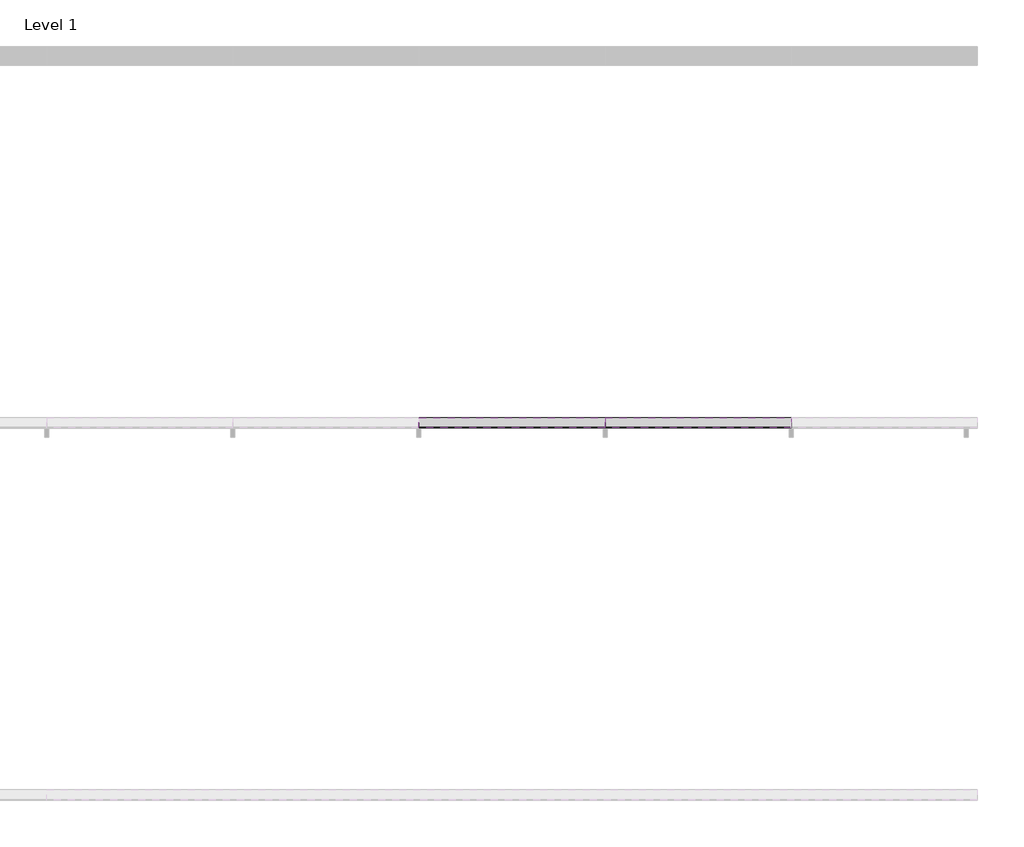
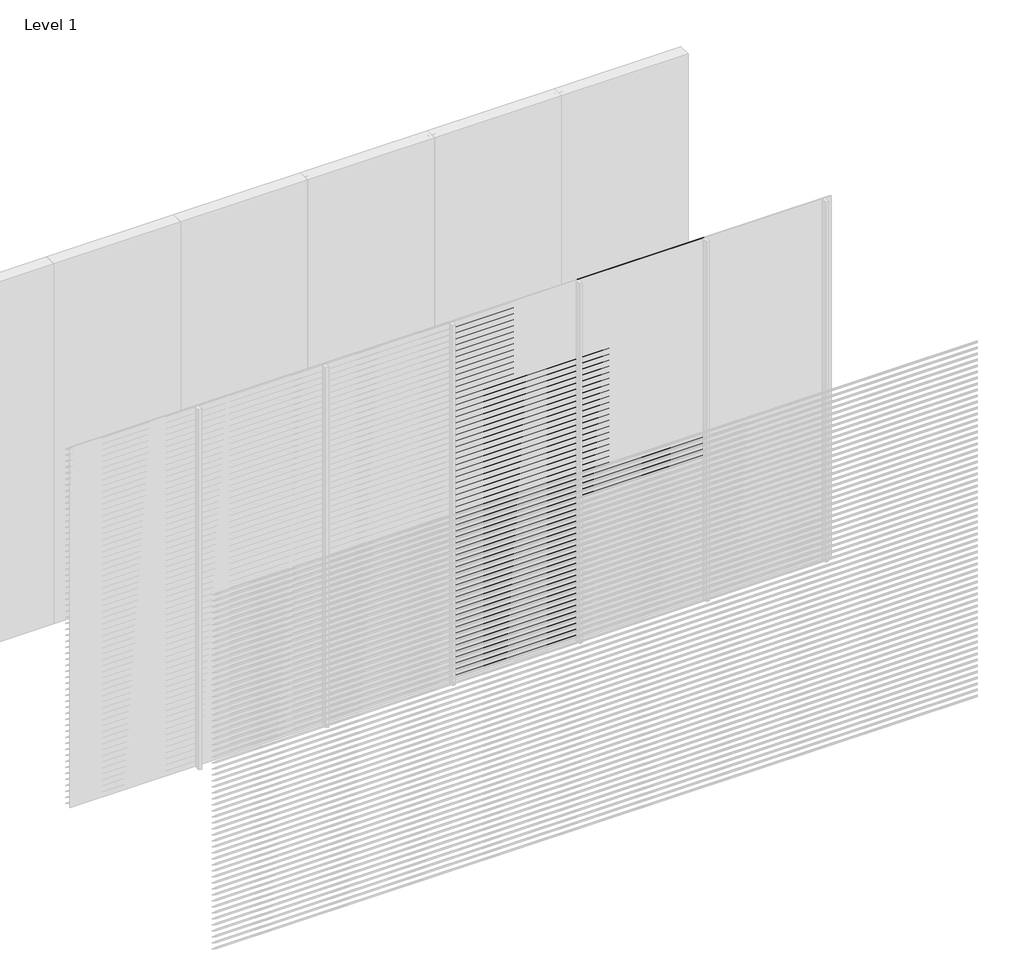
# One storey, part 13 of 18: 96 proxies.
"""IFC4 building model written with IfcOpenShell, lengths in millimetres."""

from ifc_helpers import new_model, si_unit, frame, origin, place, context, project, spatial, polyline, outline, extrude, element, save

model = new_model("IFC4")

# Units and contexts
model_context = context("Model", 3, world=origin())
ifc_project = project(units=[si_unit("LENGTHUNIT", "METRE", prefix="MILLI")], contexts=[model_context])

# Site, building, storey
site = spatial("IfcSite", under=ifc_project)
building = spatial("IfcBuilding", under=site)
storey = spatial("IfcBuildingStorey", under=building, Name="Level 1", Elevation=0.0)

# Proxies
placement = place(None, origin())
element("IfcBuildingElementProxy", 1, Name="Wall Sweeps", at=placement, inside=storey, context=model_context, shape_type="SweptSolid", body=[
    extrude(outline(polyline([(-5995.0, 2950.0), (-5995.0, 2941.0744429), (-5943.0, 2906.0), (-5943.0, 2900.0), (-5997.0, 2936.4234599), (-5997.0, 2950.0), (-5995.0, 2950.0)])), frame((3000.0, 0.0, 0.0), z_axis=(1.0, 0.0, 0.0), x_axis=(0.0, 1.0, 0.0)), (0.0, 0.0, 1.0), 1000.0),
])
element("IfcBuildingElementProxy", 2, Name="Wall Sweeps", at=placement, inside=storey, context=model_context, shape_type="SweptSolid", body=[
    extrude(outline(polyline([(-5995.0, 2900.0), (-5995.0, 2891.0744429), (-5943.0, 2856.0), (-5943.0, 2850.0), (-5997.0, 2886.4234599), (-5997.0, 2900.0), (-5995.0, 2900.0)])), frame((3000.0, 0.0, 0.0), z_axis=(1.0, 0.0, 0.0), x_axis=(0.0, 1.0, 0.0)), (0.0, 0.0, 1.0), 1000.0),
])
element("IfcBuildingElementProxy", 3, Name="Wall Sweeps", at=placement, inside=storey, context=model_context, shape_type="SweptSolid", body=[
    extrude(outline(polyline([(-5995.0, 2850.0), (-5995.0, 2841.0744429), (-5943.0, 2806.0), (-5943.0, 2800.0), (-5997.0, 2836.4234599), (-5997.0, 2850.0), (-5995.0, 2850.0)])), frame((3000.0, 0.0, 0.0), z_axis=(1.0, 0.0, 0.0), x_axis=(0.0, 1.0, 0.0)), (0.0, 0.0, 1.0), 1000.0),
])
element("IfcBuildingElementProxy", 4, Name="Wall Sweeps", at=placement, inside=storey, context=model_context, shape_type="SweptSolid", body=[
    extrude(outline(polyline([(-5995.0, 2800.0), (-5995.0, 2791.0744429), (-5943.0, 2756.0), (-5943.0, 2750.0), (-5997.0, 2786.4234599), (-5997.0, 2800.0), (-5995.0, 2800.0)])), frame((3000.0, 0.0, 0.0), z_axis=(1.0, 0.0, 0.0), x_axis=(0.0, 1.0, 0.0)), (0.0, 0.0, 1.0), 1000.0),
])
element("IfcBuildingElementProxy", 5, Name="Wall Sweeps", at=placement, inside=storey, context=model_context, shape_type="SweptSolid", body=[
    extrude(outline(polyline([(-5995.0, 2750.0), (-5995.0, 2741.0744429), (-5943.0, 2706.0), (-5943.0, 2700.0), (-5997.0, 2736.4234599), (-5997.0, 2750.0), (-5995.0, 2750.0)])), frame((3000.0, 0.0, 0.0), z_axis=(1.0, 0.0, 0.0), x_axis=(0.0, 1.0, 0.0)), (0.0, 0.0, 1.0), 1000.0),
])
element("IfcBuildingElementProxy", 6, Name="Wall Sweeps", at=placement, inside=storey, context=model_context, shape_type="SweptSolid", body=[
    extrude(outline(polyline([(-5995.0, 2700.0), (-5995.0, 2691.0744429), (-5943.0, 2656.0), (-5943.0, 2650.0), (-5997.0, 2686.4234599), (-5997.0, 2700.0), (-5995.0, 2700.0)])), frame((3000.0, 0.0, 0.0), z_axis=(1.0, 0.0, 0.0), x_axis=(0.0, 1.0, 0.0)), (0.0, 0.0, 1.0), 1000.0),
])
element("IfcBuildingElementProxy", 7, Name="Wall Sweeps", at=placement, inside=storey, context=model_context, shape_type="SweptSolid", body=[
    extrude(outline(polyline([(-5995.0, 2650.0), (-5995.0, 2641.0744429), (-5943.0, 2606.0), (-5943.0, 2600.0), (-5997.0, 2636.4234599), (-5997.0, 2650.0), (-5995.0, 2650.0)])), frame((3000.0, 0.0, 0.0), z_axis=(1.0, 0.0, 0.0), x_axis=(0.0, 1.0, 0.0)), (0.0, 0.0, 1.0), 1000.0),
])
element("IfcBuildingElementProxy", 8, Name="Wall Sweeps", at=placement, inside=storey, context=model_context, shape_type="SweptSolid", body=[
    extrude(outline(polyline([(-5995.0, 2600.0), (-5995.0, 2591.0744429), (-5943.0, 2556.0), (-5943.0, 2550.0), (-5997.0, 2586.4234599), (-5997.0, 2600.0), (-5995.0, 2600.0)])), frame((3000.0, 0.0, 0.0), z_axis=(1.0, 0.0, 0.0), x_axis=(0.0, 1.0, 0.0)), (0.0, 0.0, 1.0), 1000.0),
])
element("IfcBuildingElementProxy", 9, Name="Wall Sweeps", at=placement, inside=storey, context=model_context, shape_type="SweptSolid", body=[
    extrude(outline(polyline([(-5995.0, 2550.0), (-5995.0, 2541.0744429), (-5943.0, 2506.0), (-5943.0, 2500.0), (-5997.0, 2536.4234599), (-5997.0, 2550.0), (-5995.0, 2550.0)])), frame((3000.0, 0.0, 0.0), z_axis=(1.0, 0.0, 0.0), x_axis=(0.0, 1.0, 0.0)), (0.0, 0.0, 1.0), 1000.0),
])
element("IfcBuildingElementProxy", 10, Name="Wall Sweeps", at=placement, inside=storey, context=model_context, shape_type="SweptSolid", body=[
    extrude(outline(polyline([(-5995.0, 2500.0), (-5995.0, 2491.0744429), (-5943.0, 2456.0), (-5943.0, 2450.0), (-5997.0, 2486.4234599), (-5997.0, 2500.0), (-5995.0, 2500.0)])), frame((3000.0, 0.0, 0.0), z_axis=(1.0, 0.0, 0.0), x_axis=(0.0, 1.0, 0.0)), (0.0, 0.0, 1.0), 1000.0),
])
element("IfcBuildingElementProxy", 11, Name="Wall Sweeps", at=placement, inside=storey, context=model_context, shape_type="SweptSolid", body=[
    extrude(outline(polyline([(-5995.0, 2450.0), (-5995.0, 2441.0744429), (-5943.0, 2406.0), (-5943.0, 2400.0), (-5997.0, 2436.4234599), (-5997.0, 2450.0), (-5995.0, 2450.0)])), frame((3000.0, 0.0, 0.0), z_axis=(1.0, 0.0, 0.0), x_axis=(0.0, 1.0, 0.0)), (0.0, 0.0, 1.0), 1000.0),
])
element("IfcBuildingElementProxy", 12, Name="Wall Sweeps", at=placement, inside=storey, context=model_context, shape_type="SweptSolid", body=[
    extrude(outline(polyline([(-5995.0, 2400.0), (-5995.0, 2391.0744429), (-5943.0, 2356.0), (-5943.0, 2350.0), (-5997.0, 2386.4234599), (-5997.0, 2400.0), (-5995.0, 2400.0)])), frame((3000.0, 0.0, 0.0), z_axis=(1.0, 0.0, 0.0), x_axis=(0.0, 1.0, 0.0)), (0.0, 0.0, 1.0), 1000.0),
])
element("IfcBuildingElementProxy", 13, Name="Wall Sweeps", at=placement, inside=storey, context=model_context, shape_type="SweptSolid", body=[
    extrude(outline(polyline([(-5995.0, 2350.0), (-5995.0, 2341.0744429), (-5943.0, 2306.0), (-5943.0, 2300.0), (-5997.0, 2336.4234599), (-5997.0, 2350.0), (-5995.0, 2350.0)])), frame((3000.0, 0.0, 0.0), z_axis=(1.0, 0.0, 0.0), x_axis=(0.0, 1.0, 0.0)), (0.0, 0.0, 1.0), 1000.0),
])
element("IfcBuildingElementProxy", 14, Name="Wall Sweeps", at=placement, inside=storey, context=model_context, shape_type="SweptSolid", body=[
    extrude(outline(polyline([(-5995.0, 2300.0), (-5995.0, 2291.0744429), (-5943.0, 2256.0), (-5943.0, 2250.0), (-5997.0, 2286.4234599), (-5997.0, 2300.0), (-5995.0, 2300.0)])), frame((3000.0, 0.0, 0.0), z_axis=(1.0, 0.0, 0.0), x_axis=(0.0, 1.0, 0.0)), (0.0, 0.0, 1.0), 1000.0),
])
element("IfcBuildingElementProxy", 15, Name="Wall Sweeps", at=placement, inside=storey, context=model_context, shape_type="SweptSolid", body=[
    extrude(outline(polyline([(-5995.0, 2250.0), (-5995.0, 2241.0744429), (-5943.0, 2206.0), (-5943.0, 2200.0), (-5997.0, 2236.4234599), (-5997.0, 2250.0), (-5995.0, 2250.0)])), frame((3000.0, 0.0, 0.0), z_axis=(1.0, 0.0, 0.0), x_axis=(0.0, 1.0, 0.0)), (0.0, 0.0, 1.0), 1000.0),
])
element("IfcBuildingElementProxy", 16, Name="Wall Sweeps", at=placement, inside=storey, context=model_context, shape_type="SweptSolid", body=[
    extrude(outline(polyline([(-5995.0, 2200.0), (-5995.0, 2191.0744429), (-5943.0, 2156.0), (-5943.0, 2150.0), (-5997.0, 2186.4234599), (-5997.0, 2200.0), (-5995.0, 2200.0)])), frame((3000.0, 0.0, 0.0), z_axis=(1.0, 0.0, 0.0), x_axis=(0.0, 1.0, 0.0)), (0.0, 0.0, 1.0), 1000.0),
])
element("IfcBuildingElementProxy", 17, Name="Wall Sweeps", at=placement, inside=storey, context=model_context, shape_type="SweptSolid", body=[
    extrude(outline(polyline([(-5995.0, 2150.0), (-5995.0, 2141.0744429), (-5943.0, 2106.0), (-5943.0, 2100.0), (-5997.0, 2136.4234599), (-5997.0, 2150.0), (-5995.0, 2150.0)])), frame((3000.0, 0.0, 0.0), z_axis=(1.0, 0.0, 0.0), x_axis=(0.0, 1.0, 0.0)), (0.0, 0.0, 1.0), 1000.0),
])
element("IfcBuildingElementProxy", 18, Name="Wall Sweeps", at=placement, inside=storey, context=model_context, shape_type="SweptSolid", body=[
    extrude(outline(polyline([(-5995.0, 2100.0), (-5995.0, 2091.0744429), (-5943.0, 2056.0), (-5943.0, 2050.0), (-5997.0, 2086.4234599), (-5997.0, 2100.0), (-5995.0, 2100.0)])), frame((3000.0, 0.0, 0.0), z_axis=(1.0, 0.0, 0.0), x_axis=(0.0, 1.0, 0.0)), (0.0, 0.0, 1.0), 1000.0),
])
element("IfcBuildingElementProxy", 19, Name="Wall Sweeps", at=placement, inside=storey, context=model_context, shape_type="SweptSolid", body=[
    extrude(outline(polyline([(-5995.0, 2050.0), (-5995.0, 2041.0744429), (-5943.0, 2006.0), (-5943.0, 2000.0), (-5997.0, 2036.4234599), (-5997.0, 2050.0), (-5995.0, 2050.0)])), frame((3000.0, 0.0, 0.0), z_axis=(1.0, 0.0, 0.0), x_axis=(0.0, 1.0, 0.0)), (0.0, 0.0, 1.0), 1000.0),
])
element("IfcBuildingElementProxy", 20, Name="Wall Sweeps", at=placement, inside=storey, context=model_context, shape_type="SweptSolid", body=[
    extrude(outline(polyline([(-5995.0, 2000.0), (-5995.0, 1991.0744429), (-5943.0, 1956.0), (-5943.0, 1950.0), (-5997.0, 1986.4234599), (-5997.0, 2000.0), (-5995.0, 2000.0)])), frame((3000.0, 0.0, 0.0), z_axis=(1.0, 0.0, 0.0), x_axis=(0.0, 1.0, 0.0)), (0.0, 0.0, 1.0), 1000.0),
])
element("IfcBuildingElementProxy", 21, Name="Wall Sweeps", at=placement, inside=storey, context=model_context, shape_type="SweptSolid", body=[
    extrude(outline(polyline([(-5995.0, 1950.0), (-5995.0, 1941.0744429), (-5943.0, 1906.0), (-5943.0, 1900.0), (-5997.0, 1936.4234599), (-5997.0, 1950.0), (-5995.0, 1950.0)])), frame((3000.0, 0.0, 0.0), z_axis=(1.0, 0.0, 0.0), x_axis=(0.0, 1.0, 0.0)), (0.0, 0.0, 1.0), 1000.0),
])
element("IfcBuildingElementProxy", 22, Name="Wall Sweeps", at=placement, inside=storey, context=model_context, shape_type="SweptSolid", body=[
    extrude(outline(polyline([(-5995.0, 1900.0), (-5995.0, 1891.0744429), (-5943.0, 1856.0), (-5943.0, 1850.0), (-5997.0, 1886.4234599), (-5997.0, 1900.0), (-5995.0, 1900.0)])), frame((3000.0, 0.0, 0.0), z_axis=(1.0, 0.0, 0.0), x_axis=(0.0, 1.0, 0.0)), (0.0, 0.0, 1.0), 1000.0),
])
element("IfcBuildingElementProxy", 23, Name="Wall Sweeps", at=placement, inside=storey, context=model_context, shape_type="SweptSolid", body=[
    extrude(outline(polyline([(-5995.0, 1850.0), (-5995.0, 1841.0744429), (-5943.0, 1806.0), (-5943.0, 1800.0), (-5997.0, 1836.4234599), (-5997.0, 1850.0), (-5995.0, 1850.0)])), frame((3000.0, 0.0, 0.0), z_axis=(1.0, 0.0, 0.0), x_axis=(0.0, 1.0, 0.0)), (0.0, 0.0, 1.0), 1000.0),
])
element("IfcBuildingElementProxy", 24, Name="Wall Sweeps", at=placement, inside=storey, context=model_context, shape_type="SweptSolid", body=[
    extrude(outline(polyline([(-5995.0, 1800.0), (-5995.0, 1791.0744429), (-5943.0, 1756.0), (-5943.0, 1750.0), (-5997.0, 1786.4234599), (-5997.0, 1800.0), (-5995.0, 1800.0)])), frame((3000.0, 0.0, 0.0), z_axis=(1.0, 0.0, 0.0), x_axis=(0.0, 1.0, 0.0)), (0.0, 0.0, 1.0), 1000.0),
])
element("IfcBuildingElementProxy", 25, Name="Wall Sweeps", at=placement, inside=storey, context=model_context, shape_type="SweptSolid", body=[
    extrude(outline(polyline([(-5995.0, 1750.0), (-5995.0, 1741.0744429), (-5943.0, 1706.0), (-5943.0, 1700.0), (-5997.0, 1736.4234599), (-5997.0, 1750.0), (-5995.0, 1750.0)])), frame((3000.0, 0.0, 0.0), z_axis=(1.0, 0.0, 0.0), x_axis=(0.0, 1.0, 0.0)), (0.0, 0.0, 1.0), 1000.0),
])
element("IfcBuildingElementProxy", 26, Name="Wall Sweeps", at=placement, inside=storey, context=model_context, shape_type="SweptSolid", body=[
    extrude(outline(polyline([(-5995.0, 1700.0), (-5995.0, 1691.0744429), (-5943.0, 1656.0), (-5943.0, 1650.0), (-5997.0, 1686.4234599), (-5997.0, 1700.0), (-5995.0, 1700.0)])), frame((3000.0, 0.0, 0.0), z_axis=(1.0, 0.0, 0.0), x_axis=(0.0, 1.0, 0.0)), (0.0, 0.0, 1.0), 1000.0),
])
element("IfcBuildingElementProxy", 27, Name="Wall Sweeps", at=placement, inside=storey, context=model_context, shape_type="SweptSolid", body=[
    extrude(outline(polyline([(-5995.0, 1650.0), (-5995.0, 1641.0744429), (-5943.0, 1606.0), (-5943.0, 1600.0), (-5997.0, 1636.4234599), (-5997.0, 1650.0), (-5995.0, 1650.0)])), frame((3000.0, 0.0, 0.0), z_axis=(1.0, 0.0, 0.0), x_axis=(0.0, 1.0, 0.0)), (0.0, 0.0, 1.0), 1000.0),
])
element("IfcBuildingElementProxy", 28, Name="Wall Sweeps", at=placement, inside=storey, context=model_context, shape_type="SweptSolid", body=[
    extrude(outline(polyline([(-5995.0, 1600.0), (-5995.0, 1591.0744429), (-5943.0, 1556.0), (-5943.0, 1550.0), (-5997.0, 1586.4234599), (-5997.0, 1600.0), (-5995.0, 1600.0)])), frame((3000.0, 0.0, 0.0), z_axis=(1.0, 0.0, 0.0), x_axis=(0.0, 1.0, 0.0)), (0.0, 0.0, 1.0), 1000.0),
])
element("IfcBuildingElementProxy", 29, Name="Wall Sweeps", at=placement, inside=storey, context=model_context, shape_type="SweptSolid", body=[
    extrude(outline(polyline([(-5995.0, 1550.0), (-5995.0, 1541.0744429), (-5943.0, 1506.0), (-5943.0, 1500.0), (-5997.0, 1536.4234599), (-5997.0, 1550.0), (-5995.0, 1550.0)])), frame((3000.0, 0.0, 0.0), z_axis=(1.0, 0.0, 0.0), x_axis=(0.0, 1.0, 0.0)), (0.0, 0.0, 1.0), 1000.0),
])
element("IfcBuildingElementProxy", 30, Name="Wall Sweeps", at=placement, inside=storey, context=model_context, shape_type="SweptSolid", body=[
    extrude(outline(polyline([(-5995.0, 1500.0), (-5995.0, 1491.0744429), (-5943.0, 1456.0), (-5943.0, 1450.0), (-5997.0, 1486.4234599), (-5997.0, 1500.0), (-5995.0, 1500.0)])), frame((3000.0, 0.0, 0.0), z_axis=(1.0, 0.0, 0.0), x_axis=(0.0, 1.0, 0.0)), (0.0, 0.0, 1.0), 1000.0),
])
element("IfcBuildingElementProxy", 31, Name="Wall Sweeps", at=placement, inside=storey, context=model_context, shape_type="SweptSolid", body=[
    extrude(outline(polyline([(-5995.0, 1450.0), (-5995.0, 1441.0744429), (-5943.0, 1406.0), (-5943.0, 1400.0), (-5997.0, 1436.4234599), (-5997.0, 1450.0), (-5995.0, 1450.0)])), frame((3000.0, 0.0, 0.0), z_axis=(1.0, 0.0, 0.0), x_axis=(0.0, 1.0, 0.0)), (0.0, 0.0, 1.0), 1000.0),
])
element("IfcBuildingElementProxy", 32, Name="Wall Sweeps", at=placement, inside=storey, context=model_context, shape_type="SweptSolid", body=[
    extrude(outline(polyline([(-5995.0, 1400.0), (-5995.0, 1391.0744429), (-5943.0, 1356.0), (-5943.0, 1350.0), (-5997.0, 1386.4234599), (-5997.0, 1400.0), (-5995.0, 1400.0)])), frame((3000.0, 0.0, 0.0), z_axis=(1.0, 0.0, 0.0), x_axis=(0.0, 1.0, 0.0)), (0.0, 0.0, 1.0), 1000.0),
])
element("IfcBuildingElementProxy", 33, Name="Wall Sweeps", at=placement, inside=storey, context=model_context, shape_type="SweptSolid", body=[
    extrude(outline(polyline([(-5995.0, 1350.0), (-5995.0, 1341.0744429), (-5943.0, 1306.0), (-5943.0, 1300.0), (-5997.0, 1336.4234599), (-5997.0, 1350.0), (-5995.0, 1350.0)])), frame((3000.0, 0.0, 0.0), z_axis=(1.0, 0.0, 0.0), x_axis=(0.0, 1.0, 0.0)), (0.0, 0.0, 1.0), 1000.0),
])
element("IfcBuildingElementProxy", 34, Name="Wall Sweeps", at=placement, inside=storey, context=model_context, shape_type="SweptSolid", body=[
    extrude(outline(polyline([(-5995.0, 1300.0), (-5995.0, 1291.0744429), (-5943.0, 1256.0), (-5943.0, 1250.0), (-5997.0, 1286.4234599), (-5997.0, 1300.0), (-5995.0, 1300.0)])), frame((3000.0, 0.0, 0.0), z_axis=(1.0, 0.0, 0.0), x_axis=(0.0, 1.0, 0.0)), (0.0, 0.0, 1.0), 1000.0),
])
element("IfcBuildingElementProxy", 35, Name="Wall Sweeps", at=placement, inside=storey, context=model_context, shape_type="SweptSolid", body=[
    extrude(outline(polyline([(-5995.0, 1250.0), (-5995.0, 1241.0744429), (-5943.0, 1206.0), (-5943.0, 1200.0), (-5997.0, 1236.4234599), (-5997.0, 1250.0), (-5995.0, 1250.0)])), frame((3000.0, 0.0, 0.0), z_axis=(1.0, 0.0, 0.0), x_axis=(0.0, 1.0, 0.0)), (0.0, 0.0, 1.0), 1000.0),
])
element("IfcBuildingElementProxy", 36, Name="Wall Sweeps", at=placement, inside=storey, context=model_context, shape_type="SweptSolid", body=[
    extrude(outline(polyline([(-5995.0, 1200.0), (-5995.0, 1191.0744429), (-5943.0, 1156.0), (-5943.0, 1150.0), (-5997.0, 1186.4234599), (-5997.0, 1200.0), (-5995.0, 1200.0)])), frame((3000.0, 0.0, 0.0), z_axis=(1.0, 0.0, 0.0), x_axis=(0.0, 1.0, 0.0)), (0.0, 0.0, 1.0), 1000.0),
])
element("IfcBuildingElementProxy", 37, Name="Wall Sweeps", at=placement, inside=storey, context=model_context, shape_type="SweptSolid", body=[
    extrude(outline(polyline([(-5995.0, 1150.0), (-5995.0, 1141.0744429), (-5943.0, 1106.0), (-5943.0, 1100.0), (-5997.0, 1136.4234599), (-5997.0, 1150.0), (-5995.0, 1150.0)])), frame((3000.0, 0.0, 0.0), z_axis=(1.0, 0.0, 0.0), x_axis=(0.0, 1.0, 0.0)), (0.0, 0.0, 1.0), 1000.0),
])
element("IfcBuildingElementProxy", 38, Name="Wall Sweeps", at=placement, inside=storey, context=model_context, shape_type="SweptSolid", body=[
    extrude(outline(polyline([(-5995.0, 1100.0), (-5995.0, 1091.0744429), (-5943.0, 1056.0), (-5943.0, 1050.0), (-5997.0, 1086.4234599), (-5997.0, 1100.0), (-5995.0, 1100.0)])), frame((3000.0, 0.0, 0.0), z_axis=(1.0, 0.0, 0.0), x_axis=(0.0, 1.0, 0.0)), (0.0, 0.0, 1.0), 1000.0),
])
element("IfcBuildingElementProxy", 39, Name="Wall Sweeps", at=placement, inside=storey, context=model_context, shape_type="SweptSolid", body=[
    extrude(outline(polyline([(-5995.0, 1050.0), (-5995.0, 1041.0744429), (-5943.0, 1006.0), (-5943.0, 1000.0), (-5997.0, 1036.4234599), (-5997.0, 1050.0), (-5995.0, 1050.0)])), frame((3000.0, 0.0, 0.0), z_axis=(1.0, 0.0, 0.0), x_axis=(0.0, 1.0, 0.0)), (0.0, 0.0, 1.0), 1000.0),
])
element("IfcBuildingElementProxy", 40, Name="Wall Sweeps", at=placement, inside=storey, context=model_context, shape_type="SweptSolid", body=[
    extrude(outline(polyline([(-5995.0, 1000.0), (-5995.0, 991.0744429), (-5943.0, 956.0), (-5943.0, 950.0), (-5997.0, 986.4234599), (-5997.0, 1000.0), (-5995.0, 1000.0)])), frame((3000.0, 0.0, 0.0), z_axis=(1.0, 0.0, 0.0), x_axis=(0.0, 1.0, 0.0)), (0.0, 0.0, 1.0), 1000.0),
])
element("IfcBuildingElementProxy", 41, Name="Wall Sweeps", at=placement, inside=storey, context=model_context, shape_type="SweptSolid", body=[
    extrude(outline(polyline([(-5995.0, 950.0), (-5995.0, 941.0744429), (-5943.0, 906.0), (-5943.0, 900.0), (-5997.0, 936.4234599), (-5997.0, 950.0), (-5995.0, 950.0)])), frame((3000.0, 0.0, 0.0), z_axis=(1.0, 0.0, 0.0), x_axis=(0.0, 1.0, 0.0)), (0.0, 0.0, 1.0), 1000.0),
])
element("IfcBuildingElementProxy", 42, Name="Wall Sweeps", at=placement, inside=storey, context=model_context, shape_type="SweptSolid", body=[
    extrude(outline(polyline([(-5995.0, 900.0), (-5995.0, 891.0744429), (-5943.0, 856.0), (-5943.0, 850.0), (-5997.0, 886.4234599), (-5997.0, 900.0), (-5995.0, 900.0)])), frame((3000.0, 0.0, 0.0), z_axis=(1.0, 0.0, 0.0), x_axis=(0.0, 1.0, 0.0)), (0.0, 0.0, 1.0), 1000.0),
])
element("IfcBuildingElementProxy", 43, Name="Wall Sweeps", at=placement, inside=storey, context=model_context, shape_type="SweptSolid", body=[
    extrude(outline(polyline([(-5995.0, 850.0), (-5995.0, 841.0744429), (-5943.0, 806.0), (-5943.0, 800.0), (-5997.0, 836.4234599), (-5997.0, 850.0), (-5995.0, 850.0)])), frame((3000.0, 0.0, 0.0), z_axis=(1.0, 0.0, 0.0), x_axis=(0.0, 1.0, 0.0)), (0.0, 0.0, 1.0), 1000.0),
])
element("IfcBuildingElementProxy", 44, Name="Wall Sweeps", at=placement, inside=storey, context=model_context, shape_type="SweptSolid", body=[
    extrude(outline(polyline([(-5995.0, 800.0), (-5995.0, 791.0744429), (-5943.0, 756.0), (-5943.0, 750.0), (-5997.0, 786.4234599), (-5997.0, 800.0), (-5995.0, 800.0)])), frame((3000.0, 0.0, 0.0), z_axis=(1.0, 0.0, 0.0), x_axis=(0.0, 1.0, 0.0)), (0.0, 0.0, 1.0), 1000.0),
])
element("IfcBuildingElementProxy", 45, Name="Wall Sweeps", at=placement, inside=storey, context=model_context, shape_type="SweptSolid", body=[
    extrude(outline(polyline([(-5995.0, 750.0), (-5995.0, 741.0744429), (-5943.0, 706.0), (-5943.0, 700.0), (-5997.0, 736.4234599), (-5997.0, 750.0), (-5995.0, 750.0)])), frame((3000.0, 0.0, 0.0), z_axis=(1.0, 0.0, 0.0), x_axis=(0.0, 1.0, 0.0)), (0.0, 0.0, 1.0), 1000.0),
])
element("IfcBuildingElementProxy", 46, Name="Wall Sweeps", at=placement, inside=storey, context=model_context, shape_type="SweptSolid", body=[
    extrude(outline(polyline([(-5995.0, 700.0), (-5995.0, 691.0744429), (-5943.0, 656.0), (-5943.0, 650.0), (-5997.0, 686.4234599), (-5997.0, 700.0), (-5995.0, 700.0)])), frame((3000.0, 0.0, 0.0), z_axis=(1.0, 0.0, 0.0), x_axis=(0.0, 1.0, 0.0)), (0.0, 0.0, 1.0), 1000.0),
])
element("IfcBuildingElementProxy", 47, Name="Wall Sweeps", at=placement, inside=storey, context=model_context, shape_type="SweptSolid", body=[
    extrude(outline(polyline([(-5995.0, 650.0), (-5995.0, 641.0744429), (-5943.0, 606.0), (-5943.0, 600.0), (-5997.0, 636.4234599), (-5997.0, 650.0), (-5995.0, 650.0)])), frame((3000.0, 0.0, 0.0), z_axis=(1.0, 0.0, 0.0), x_axis=(0.0, 1.0, 0.0)), (0.0, 0.0, 1.0), 1000.0),
])
element("IfcBuildingElementProxy", 48, Name="Wall Sweeps", at=placement, inside=storey, context=model_context, shape_type="SweptSolid", body=[
    extrude(outline(polyline([(-5995.0, 600.0), (-5995.0, 591.0744429), (-5943.0, 556.0), (-5943.0, 550.0), (-5997.0, 586.4234599), (-5997.0, 600.0), (-5995.0, 600.0)])), frame((3000.0, 0.0, 0.0), z_axis=(1.0, 0.0, 0.0), x_axis=(0.0, 1.0, 0.0)), (0.0, 0.0, 1.0), 1000.0),
])
element("IfcBuildingElementProxy", 49, Name="Wall Sweeps", at=placement, inside=storey, context=model_context, shape_type="SweptSolid", body=[
    extrude(outline(polyline([(-5995.0, 550.0), (-5995.0, 541.0744429), (-5943.0, 506.0), (-5943.0, 500.0), (-5997.0, 536.4234599), (-5997.0, 550.0), (-5995.0, 550.0)])), frame((3000.0, 0.0, 0.0), z_axis=(1.0, 0.0, 0.0), x_axis=(0.0, 1.0, 0.0)), (0.0, 0.0, 1.0), 1000.0),
])
element("IfcBuildingElementProxy", 50, Name="Wall Sweeps", at=placement, inside=storey, context=model_context, shape_type="SweptSolid", body=[
    extrude(outline(polyline([(-5995.0, 500.0), (-5995.0, 491.0744429), (-5943.0, 456.0), (-5943.0, 450.0), (-5997.0, 486.4234599), (-5997.0, 500.0), (-5995.0, 500.0)])), frame((3000.0, 0.0, 0.0), z_axis=(1.0, 0.0, 0.0), x_axis=(0.0, 1.0, 0.0)), (0.0, 0.0, 1.0), 1000.0),
])
element("IfcBuildingElementProxy", 51, Name="Wall Sweeps", at=placement, inside=storey, context=model_context, shape_type="SweptSolid", body=[
    extrude(outline(polyline([(-5995.0, 450.0), (-5995.0, 441.0744429), (-5943.0, 406.0), (-5943.0, 400.0), (-5997.0, 436.4234599), (-5997.0, 450.0), (-5995.0, 450.0)])), frame((3000.0, 0.0, 0.0), z_axis=(1.0, 0.0, 0.0), x_axis=(0.0, 1.0, 0.0)), (0.0, 0.0, 1.0), 1000.0),
])
element("IfcBuildingElementProxy", 52, Name="Wall Sweeps", at=placement, inside=storey, context=model_context, shape_type="SweptSolid", body=[
    extrude(outline(polyline([(-5995.0, 400.0), (-5995.0, 391.0744429), (-5943.0, 356.0), (-5943.0, 350.0), (-5997.0, 386.4234599), (-5997.0, 400.0), (-5995.0, 400.0)])), frame((3000.0, 0.0, 0.0), z_axis=(1.0, 0.0, 0.0), x_axis=(0.0, 1.0, 0.0)), (0.0, 0.0, 1.0), 1000.0),
])
element("IfcBuildingElementProxy", 53, Name="Wall Sweeps", at=placement, inside=storey, context=model_context, shape_type="SweptSolid", body=[
    extrude(outline(polyline([(-5995.0, 350.0), (-5995.0, 341.0744429), (-5943.0, 306.0), (-5943.0, 300.0), (-5997.0, 336.4234599), (-5997.0, 350.0), (-5995.0, 350.0)])), frame((3000.0, 0.0, 0.0), z_axis=(1.0, 0.0, 0.0), x_axis=(0.0, 1.0, 0.0)), (0.0, 0.0, 1.0), 1000.0),
])
element("IfcBuildingElementProxy", 54, Name="Wall Sweeps", at=placement, inside=storey, context=model_context, shape_type="SweptSolid", body=[
    extrude(outline(polyline([(-5995.0, 300.0), (-5995.0, 291.0744429), (-5943.0, 256.0), (-5943.0, 250.0), (-5997.0, 286.4234599), (-5997.0, 300.0), (-5995.0, 300.0)])), frame((3000.0, 0.0, 0.0), z_axis=(1.0, 0.0, 0.0), x_axis=(0.0, 1.0, 0.0)), (0.0, 0.0, 1.0), 1000.0),
])
element("IfcBuildingElementProxy", 55, Name="Wall Sweeps", at=placement, inside=storey, context=model_context, shape_type="SweptSolid", body=[
    extrude(outline(polyline([(-5995.0, 250.0), (-5995.0, 241.0744429), (-5943.0, 206.0), (-5943.0, 200.0), (-5997.0, 236.4234599), (-5997.0, 250.0), (-5995.0, 250.0)])), frame((3000.0, 0.0, 0.0), z_axis=(1.0, 0.0, 0.0), x_axis=(0.0, 1.0, 0.0)), (0.0, 0.0, 1.0), 1000.0),
])
element("IfcBuildingElementProxy", 56, Name="Wall Sweeps", at=placement, inside=storey, context=model_context, shape_type="SweptSolid", body=[
    extrude(outline(polyline([(-5995.0, 200.0), (-5995.0, 191.0744429), (-5943.0, 156.0), (-5943.0, 150.0), (-5997.0, 186.4234599), (-5997.0, 200.0), (-5995.0, 200.0)])), frame((3000.0, 0.0, 0.0), z_axis=(1.0, 0.0, 0.0), x_axis=(0.0, 1.0, 0.0)), (0.0, 0.0, 1.0), 1000.0),
])
element("IfcBuildingElementProxy", 57, Name="Wall Sweeps", at=placement, inside=storey, context=model_context, shape_type="SweptSolid", body=[
    extrude(outline(polyline([(-5995.0, 150.0), (-5995.0, 141.0744429), (-5943.0, 106.0), (-5943.0, 100.0), (-5997.0, 136.4234599), (-5997.0, 150.0), (-5995.0, 150.0)])), frame((3000.0, 0.0, 0.0), z_axis=(1.0, 0.0, 0.0), x_axis=(0.0, 1.0, 0.0)), (0.0, 0.0, 1.0), 1000.0),
])
element("IfcBuildingElementProxy", 58, Name="Wall Sweeps", at=placement, inside=storey, context=model_context, shape_type="SweptSolid", body=[
    extrude(outline(polyline([(-5995.0, 100.0), (-5995.0, 91.0744429), (-5943.0, 56.0), (-5943.0, 50.0), (-5997.0, 86.4234599), (-5997.0, 100.0), (-5995.0, 100.0)])), frame((3000.0, 0.0, 0.0), z_axis=(1.0, 0.0, 0.0), x_axis=(0.0, 1.0, 0.0)), (0.0, 0.0, 1.0), 1000.0),
])
element("IfcBuildingElementProxy", 59, Name="Wall Sweeps", at=placement, inside=storey, context=model_context, shape_type="SweptSolid", body=[
    extrude(outline(polyline([(-5995.0, 50.0), (-5995.0, 41.0744429), (-5943.0, 6.0), (-5943.0, 0.0), (-5997.0, 36.4234599), (-5997.0, 50.0), (-5995.0, 50.0)])), frame((3000.0, 0.0, 0.0), z_axis=(1.0, 0.0, 0.0), x_axis=(0.0, 1.0, 0.0)), (0.0, 0.0, 1.0), 1000.0),
])
element("IfcBuildingElementProxy", 60, Name="Wall Sweeps", at=placement, inside=storey, context=model_context, shape_type="SweptSolid", body=[
    extrude(outline(polyline([(-5995.0, 3000.0), (-5995.0, 2991.0744429), (-5943.0, 2956.0), (-5943.0, 2950.0), (-5997.0, 2986.4234599), (-5997.0, 3000.0), (-5995.0, 3000.0)])), frame((4000.0, 0.0, 0.0), z_axis=(1.0, 0.0, 0.0), x_axis=(0.0, 1.0, 0.0)), (0.0, 0.0, 1.0), 1000.0),
])
element("IfcBuildingElementProxy", 61, Name="Wall Sweeps", at=placement, inside=storey, context=model_context, shape_type="SweptSolid", body=[
    extrude(outline(polyline([(-5995.0, 2950.0), (-5995.0, 2941.0744429), (-5943.0, 2906.0), (-5943.0, 2900.0), (-5997.0, 2936.4234599), (-5997.0, 2950.0), (-5995.0, 2950.0)])), frame((4000.0, 0.0, 0.0), z_axis=(1.0, 0.0, 0.0), x_axis=(0.0, 1.0, 0.0)), (0.0, 0.0, 1.0), 1000.0),
])
element("IfcBuildingElementProxy", 62, Name="Wall Sweeps", at=placement, inside=storey, context=model_context, shape_type="SweptSolid", body=[
    extrude(outline(polyline([(-5995.0, 2900.0), (-5995.0, 2891.0744429), (-5943.0, 2856.0), (-5943.0, 2850.0), (-5997.0, 2886.4234599), (-5997.0, 2900.0), (-5995.0, 2900.0)])), frame((4000.0, 0.0, 0.0), z_axis=(1.0, 0.0, 0.0), x_axis=(0.0, 1.0, 0.0)), (0.0, 0.0, 1.0), 1000.0),
])
element("IfcBuildingElementProxy", 63, Name="Wall Sweeps", at=placement, inside=storey, context=model_context, shape_type="SweptSolid", body=[
    extrude(outline(polyline([(-5995.0, 2850.0), (-5995.0, 2841.0744429), (-5943.0, 2806.0), (-5943.0, 2800.0), (-5997.0, 2836.4234599), (-5997.0, 2850.0), (-5995.0, 2850.0)])), frame((4000.0, 0.0, 0.0), z_axis=(1.0, 0.0, 0.0), x_axis=(0.0, 1.0, 0.0)), (0.0, 0.0, 1.0), 1000.0),
])
element("IfcBuildingElementProxy", 64, Name="Wall Sweeps", at=placement, inside=storey, context=model_context, shape_type="SweptSolid", body=[
    extrude(outline(polyline([(-5995.0, 2800.0), (-5995.0, 2791.0744429), (-5943.0, 2756.0), (-5943.0, 2750.0), (-5997.0, 2786.4234599), (-5997.0, 2800.0), (-5995.0, 2800.0)])), frame((4000.0, 0.0, 0.0), z_axis=(1.0, 0.0, 0.0), x_axis=(0.0, 1.0, 0.0)), (0.0, 0.0, 1.0), 1000.0),
])
element("IfcBuildingElementProxy", 65, Name="Wall Sweeps", at=placement, inside=storey, context=model_context, shape_type="SweptSolid", body=[
    extrude(outline(polyline([(-5995.0, 2750.0), (-5995.0, 2741.0744429), (-5943.0, 2706.0), (-5943.0, 2700.0), (-5997.0, 2736.4234599), (-5997.0, 2750.0), (-5995.0, 2750.0)])), frame((4000.0, 0.0, 0.0), z_axis=(1.0, 0.0, 0.0), x_axis=(0.0, 1.0, 0.0)), (0.0, 0.0, 1.0), 1000.0),
])
element("IfcBuildingElementProxy", 66, Name="Wall Sweeps", at=placement, inside=storey, context=model_context, shape_type="SweptSolid", body=[
    extrude(outline(polyline([(-5995.0, 2700.0), (-5995.0, 2691.0744429), (-5943.0, 2656.0), (-5943.0, 2650.0), (-5997.0, 2686.4234599), (-5997.0, 2700.0), (-5995.0, 2700.0)])), frame((4000.0, 0.0, 0.0), z_axis=(1.0, 0.0, 0.0), x_axis=(0.0, 1.0, 0.0)), (0.0, 0.0, 1.0), 1000.0),
])
element("IfcBuildingElementProxy", 67, Name="Wall Sweeps", at=placement, inside=storey, context=model_context, shape_type="SweptSolid", body=[
    extrude(outline(polyline([(-5995.0, 2650.0), (-5995.0, 2641.0744429), (-5943.0, 2606.0), (-5943.0, 2600.0), (-5997.0, 2636.4234599), (-5997.0, 2650.0), (-5995.0, 2650.0)])), frame((4000.0, 0.0, 0.0), z_axis=(1.0, 0.0, 0.0), x_axis=(0.0, 1.0, 0.0)), (0.0, 0.0, 1.0), 1000.0),
])
element("IfcBuildingElementProxy", 68, Name="Wall Sweeps", at=placement, inside=storey, context=model_context, shape_type="SweptSolid", body=[
    extrude(outline(polyline([(-5995.0, 2600.0), (-5995.0, 2591.0744429), (-5943.0, 2556.0), (-5943.0, 2550.0), (-5997.0, 2586.4234599), (-5997.0, 2600.0), (-5995.0, 2600.0)])), frame((4000.0, 0.0, 0.0), z_axis=(1.0, 0.0, 0.0), x_axis=(0.0, 1.0, 0.0)), (0.0, 0.0, 1.0), 1000.0),
])
element("IfcBuildingElementProxy", 69, Name="Wall Sweeps", at=placement, inside=storey, context=model_context, shape_type="SweptSolid", body=[
    extrude(outline(polyline([(-5995.0, 2550.0), (-5995.0, 2541.0744429), (-5943.0, 2506.0), (-5943.0, 2500.0), (-5997.0, 2536.4234599), (-5997.0, 2550.0), (-5995.0, 2550.0)])), frame((4000.0, 0.0, 0.0), z_axis=(1.0, 0.0, 0.0), x_axis=(0.0, 1.0, 0.0)), (0.0, 0.0, 1.0), 1000.0),
])
element("IfcBuildingElementProxy", 70, Name="Wall Sweeps", at=placement, inside=storey, context=model_context, shape_type="SweptSolid", body=[
    extrude(outline(polyline([(-5995.0, 2500.0), (-5995.0, 2491.0744429), (-5943.0, 2456.0), (-5943.0, 2450.0), (-5997.0, 2486.4234599), (-5997.0, 2500.0), (-5995.0, 2500.0)])), frame((4000.0, 0.0, 0.0), z_axis=(1.0, 0.0, 0.0), x_axis=(0.0, 1.0, 0.0)), (0.0, 0.0, 1.0), 1000.0),
])
element("IfcBuildingElementProxy", 71, Name="Wall Sweeps", at=placement, inside=storey, context=model_context, shape_type="SweptSolid", body=[
    extrude(outline(polyline([(-5995.0, 2450.0), (-5995.0, 2441.0744429), (-5943.0, 2406.0), (-5943.0, 2400.0), (-5997.0, 2436.4234599), (-5997.0, 2450.0), (-5995.0, 2450.0)])), frame((4000.0, 0.0, 0.0), z_axis=(1.0, 0.0, 0.0), x_axis=(0.0, 1.0, 0.0)), (0.0, 0.0, 1.0), 1000.0),
])
element("IfcBuildingElementProxy", 72, Name="Wall Sweeps", at=placement, inside=storey, context=model_context, shape_type="SweptSolid", body=[
    extrude(outline(polyline([(-5995.0, 2400.0), (-5995.0, 2391.0744429), (-5943.0, 2356.0), (-5943.0, 2350.0), (-5997.0, 2386.4234599), (-5997.0, 2400.0), (-5995.0, 2400.0)])), frame((4000.0, 0.0, 0.0), z_axis=(1.0, 0.0, 0.0), x_axis=(0.0, 1.0, 0.0)), (0.0, 0.0, 1.0), 1000.0),
])
element("IfcBuildingElementProxy", 73, Name="Wall Sweeps", at=placement, inside=storey, context=model_context, shape_type="SweptSolid", body=[
    extrude(outline(polyline([(-5995.0, 2350.0), (-5995.0, 2341.0744429), (-5943.0, 2306.0), (-5943.0, 2300.0), (-5997.0, 2336.4234599), (-5997.0, 2350.0), (-5995.0, 2350.0)])), frame((4000.0, 0.0, 0.0), z_axis=(1.0, 0.0, 0.0), x_axis=(0.0, 1.0, 0.0)), (0.0, 0.0, 1.0), 1000.0),
])
element("IfcBuildingElementProxy", 74, Name="Wall Sweeps", at=placement, inside=storey, context=model_context, shape_type="SweptSolid", body=[
    extrude(outline(polyline([(-5995.0, 2300.0), (-5995.0, 2291.0744429), (-5943.0, 2256.0), (-5943.0, 2250.0), (-5997.0, 2286.4234599), (-5997.0, 2300.0), (-5995.0, 2300.0)])), frame((4000.0, 0.0, 0.0), z_axis=(1.0, 0.0, 0.0), x_axis=(0.0, 1.0, 0.0)), (0.0, 0.0, 1.0), 1000.0),
])
element("IfcBuildingElementProxy", 75, Name="Wall Sweeps", at=placement, inside=storey, context=model_context, shape_type="SweptSolid", body=[
    extrude(outline(polyline([(-5995.0, 2250.0), (-5995.0, 2241.0744429), (-5943.0, 2206.0), (-5943.0, 2200.0), (-5997.0, 2236.4234599), (-5997.0, 2250.0), (-5995.0, 2250.0)])), frame((4000.0, 0.0, 0.0), z_axis=(1.0, 0.0, 0.0), x_axis=(0.0, 1.0, 0.0)), (0.0, 0.0, 1.0), 1000.0),
])
element("IfcBuildingElementProxy", 76, Name="Wall Sweeps", at=placement, inside=storey, context=model_context, shape_type="SweptSolid", body=[
    extrude(outline(polyline([(-5995.0, 2200.0), (-5995.0, 2191.0744429), (-5943.0, 2156.0), (-5943.0, 2150.0), (-5997.0, 2186.4234599), (-5997.0, 2200.0), (-5995.0, 2200.0)])), frame((4000.0, 0.0, 0.0), z_axis=(1.0, 0.0, 0.0), x_axis=(0.0, 1.0, 0.0)), (0.0, 0.0, 1.0), 1000.0),
])
element("IfcBuildingElementProxy", 77, Name="Wall Sweeps", at=placement, inside=storey, context=model_context, shape_type="SweptSolid", body=[
    extrude(outline(polyline([(-5995.0, 2150.0), (-5995.0, 2141.0744429), (-5943.0, 2106.0), (-5943.0, 2100.0), (-5997.0, 2136.4234599), (-5997.0, 2150.0), (-5995.0, 2150.0)])), frame((4000.0, 0.0, 0.0), z_axis=(1.0, 0.0, 0.0), x_axis=(0.0, 1.0, 0.0)), (0.0, 0.0, 1.0), 1000.0),
])
element("IfcBuildingElementProxy", 78, Name="Wall Sweeps", at=placement, inside=storey, context=model_context, shape_type="SweptSolid", body=[
    extrude(outline(polyline([(-5995.0, 2100.0), (-5995.0, 2091.0744429), (-5943.0, 2056.0), (-5943.0, 2050.0), (-5997.0, 2086.4234599), (-5997.0, 2100.0), (-5995.0, 2100.0)])), frame((4000.0, 0.0, 0.0), z_axis=(1.0, 0.0, 0.0), x_axis=(0.0, 1.0, 0.0)), (0.0, 0.0, 1.0), 1000.0),
])
element("IfcBuildingElementProxy", 79, Name="Wall Sweeps", at=placement, inside=storey, context=model_context, shape_type="SweptSolid", body=[
    extrude(outline(polyline([(-5995.0, 2050.0), (-5995.0, 2041.0744429), (-5943.0, 2006.0), (-5943.0, 2000.0), (-5997.0, 2036.4234599), (-5997.0, 2050.0), (-5995.0, 2050.0)])), frame((4000.0, 0.0, 0.0), z_axis=(1.0, 0.0, 0.0), x_axis=(0.0, 1.0, 0.0)), (0.0, 0.0, 1.0), 1000.0),
])
element("IfcBuildingElementProxy", 80, Name="Wall Sweeps", at=placement, inside=storey, context=model_context, shape_type="SweptSolid", body=[
    extrude(outline(polyline([(-5995.0, 2000.0), (-5995.0, 1991.0744429), (-5943.0, 1956.0), (-5943.0, 1950.0), (-5997.0, 1986.4234599), (-5997.0, 2000.0), (-5995.0, 2000.0)])), frame((4000.0, 0.0, 0.0), z_axis=(1.0, 0.0, 0.0), x_axis=(0.0, 1.0, 0.0)), (0.0, 0.0, 1.0), 1000.0),
])
element("IfcBuildingElementProxy", 81, Name="Wall Sweeps", at=placement, inside=storey, context=model_context, shape_type="SweptSolid", body=[
    extrude(outline(polyline([(-5995.0, 1950.0), (-5995.0, 1941.0744429), (-5943.0, 1906.0), (-5943.0, 1900.0), (-5997.0, 1936.4234599), (-5997.0, 1950.0), (-5995.0, 1950.0)])), frame((4000.0, 0.0, 0.0), z_axis=(1.0, 0.0, 0.0), x_axis=(0.0, 1.0, 0.0)), (0.0, 0.0, 1.0), 1000.0),
])
element("IfcBuildingElementProxy", 82, Name="Wall Sweeps", at=placement, inside=storey, context=model_context, shape_type="SweptSolid", body=[
    extrude(outline(polyline([(-5995.0, 1900.0), (-5995.0, 1891.0744429), (-5943.0, 1856.0), (-5943.0, 1850.0), (-5997.0, 1886.4234599), (-5997.0, 1900.0), (-5995.0, 1900.0)])), frame((4000.0, 0.0, 0.0), z_axis=(1.0, 0.0, 0.0), x_axis=(0.0, 1.0, 0.0)), (0.0, 0.0, 1.0), 1000.0),
])
element("IfcBuildingElementProxy", 83, Name="Wall Sweeps", at=placement, inside=storey, context=model_context, shape_type="SweptSolid", body=[
    extrude(outline(polyline([(-5995.0, 1850.0), (-5995.0, 1841.0744429), (-5943.0, 1806.0), (-5943.0, 1800.0), (-5997.0, 1836.4234599), (-5997.0, 1850.0), (-5995.0, 1850.0)])), frame((4000.0, 0.0, 0.0), z_axis=(1.0, 0.0, 0.0), x_axis=(0.0, 1.0, 0.0)), (0.0, 0.0, 1.0), 1000.0),
])
element("IfcBuildingElementProxy", 84, Name="Wall Sweeps", at=placement, inside=storey, context=model_context, shape_type="SweptSolid", body=[
    extrude(outline(polyline([(-5995.0, 1800.0), (-5995.0, 1791.0744429), (-5943.0, 1756.0), (-5943.0, 1750.0), (-5997.0, 1786.4234599), (-5997.0, 1800.0), (-5995.0, 1800.0)])), frame((4000.0, 0.0, 0.0), z_axis=(1.0, 0.0, 0.0), x_axis=(0.0, 1.0, 0.0)), (0.0, 0.0, 1.0), 1000.0),
])
element("IfcBuildingElementProxy", 85, Name="Wall Sweeps", at=placement, inside=storey, context=model_context, shape_type="SweptSolid", body=[
    extrude(outline(polyline([(-5995.0, 1750.0), (-5995.0, 1741.0744429), (-5943.0, 1706.0), (-5943.0, 1700.0), (-5997.0, 1736.4234599), (-5997.0, 1750.0), (-5995.0, 1750.0)])), frame((4000.0, 0.0, 0.0), z_axis=(1.0, 0.0, 0.0), x_axis=(0.0, 1.0, 0.0)), (0.0, 0.0, 1.0), 1000.0),
])
element("IfcBuildingElementProxy", 86, Name="Wall Sweeps", at=placement, inside=storey, context=model_context, shape_type="SweptSolid", body=[
    extrude(outline(polyline([(-5995.0, 1700.0), (-5995.0, 1691.0744429), (-5943.0, 1656.0), (-5943.0, 1650.0), (-5997.0, 1686.4234599), (-5997.0, 1700.0), (-5995.0, 1700.0)])), frame((4000.0, 0.0, 0.0), z_axis=(1.0, 0.0, 0.0), x_axis=(0.0, 1.0, 0.0)), (0.0, 0.0, 1.0), 1000.0),
])
element("IfcBuildingElementProxy", 87, Name="Wall Sweeps", at=placement, inside=storey, context=model_context, shape_type="SweptSolid", body=[
    extrude(outline(polyline([(-5995.0, 1650.0), (-5995.0, 1641.0744429), (-5943.0, 1606.0), (-5943.0, 1600.0), (-5997.0, 1636.4234599), (-5997.0, 1650.0), (-5995.0, 1650.0)])), frame((4000.0, 0.0, 0.0), z_axis=(1.0, 0.0, 0.0), x_axis=(0.0, 1.0, 0.0)), (0.0, 0.0, 1.0), 1000.0),
])
element("IfcBuildingElementProxy", 88, Name="Wall Sweeps", at=placement, inside=storey, context=model_context, shape_type="SweptSolid", body=[
    extrude(outline(polyline([(-5995.0, 1600.0), (-5995.0, 1591.0744429), (-5943.0, 1556.0), (-5943.0, 1550.0), (-5997.0, 1586.4234599), (-5997.0, 1600.0), (-5995.0, 1600.0)])), frame((4000.0, 0.0, 0.0), z_axis=(1.0, 0.0, 0.0), x_axis=(0.0, 1.0, 0.0)), (0.0, 0.0, 1.0), 1000.0),
])
element("IfcBuildingElementProxy", 89, Name="Wall Sweeps", at=placement, inside=storey, context=model_context, shape_type="SweptSolid", body=[
    extrude(outline(polyline([(-5995.0, 1550.0), (-5995.0, 1541.0744429), (-5943.0, 1506.0), (-5943.0, 1500.0), (-5997.0, 1536.4234599), (-5997.0, 1550.0), (-5995.0, 1550.0)])), frame((4000.0, 0.0, 0.0), z_axis=(1.0, 0.0, 0.0), x_axis=(0.0, 1.0, 0.0)), (0.0, 0.0, 1.0), 1000.0),
])
element("IfcBuildingElementProxy", 90, Name="Wall Sweeps", at=placement, inside=storey, context=model_context, shape_type="SweptSolid", body=[
    extrude(outline(polyline([(-5995.0, 1500.0), (-5995.0, 1491.0744429), (-5943.0, 1456.0), (-5943.0, 1450.0), (-5997.0, 1486.4234599), (-5997.0, 1500.0), (-5995.0, 1500.0)])), frame((4000.0, 0.0, 0.0), z_axis=(1.0, 0.0, 0.0), x_axis=(0.0, 1.0, 0.0)), (0.0, 0.0, 1.0), 1000.0),
])
element("IfcBuildingElementProxy", 91, Name="Wall Sweeps", at=placement, inside=storey, context=model_context, shape_type="SweptSolid", body=[
    extrude(outline(polyline([(-5995.0, 1450.0), (-5995.0, 1441.0744429), (-5943.0, 1406.0), (-5943.0, 1400.0), (-5997.0, 1436.4234599), (-5997.0, 1450.0), (-5995.0, 1450.0)])), frame((4000.0, 0.0, 0.0), z_axis=(1.0, 0.0, 0.0), x_axis=(0.0, 1.0, 0.0)), (0.0, 0.0, 1.0), 1000.0),
])
element("IfcBuildingElementProxy", 92, Name="Wall Sweeps", at=placement, inside=storey, context=model_context, shape_type="SweptSolid", body=[
    extrude(outline(polyline([(-5995.0, 1400.0), (-5995.0, 1391.0744429), (-5943.0, 1356.0), (-5943.0, 1350.0), (-5997.0, 1386.4234599), (-5997.0, 1400.0), (-5995.0, 1400.0)])), frame((4000.0, 0.0, 0.0), z_axis=(1.0, 0.0, 0.0), x_axis=(0.0, 1.0, 0.0)), (0.0, 0.0, 1.0), 1000.0),
])
element("IfcBuildingElementProxy", 93, Name="Wall Sweeps", at=placement, inside=storey, context=model_context, shape_type="SweptSolid", body=[
    extrude(outline(polyline([(-5995.0, 1350.0), (-5995.0, 1341.0744429), (-5943.0, 1306.0), (-5943.0, 1300.0), (-5997.0, 1336.4234599), (-5997.0, 1350.0), (-5995.0, 1350.0)])), frame((4000.0, 0.0, 0.0), z_axis=(1.0, 0.0, 0.0), x_axis=(0.0, 1.0, 0.0)), (0.0, 0.0, 1.0), 1000.0),
])
element("IfcBuildingElementProxy", 94, Name="Wall Sweeps", at=placement, inside=storey, context=model_context, shape_type="SweptSolid", body=[
    extrude(outline(polyline([(-5995.0, 1300.0), (-5995.0, 1291.0744429), (-5943.0, 1256.0), (-5943.0, 1250.0), (-5997.0, 1286.4234599), (-5997.0, 1300.0), (-5995.0, 1300.0)])), frame((4000.0, 0.0, 0.0), z_axis=(1.0, 0.0, 0.0), x_axis=(0.0, 1.0, 0.0)), (0.0, 0.0, 1.0), 1000.0),
])
element("IfcBuildingElementProxy", 95, Name="Wall Sweeps", at=placement, inside=storey, context=model_context, shape_type="SweptSolid", body=[
    extrude(outline(polyline([(-5995.0, 1250.0), (-5995.0, 1241.0744429), (-5943.0, 1206.0), (-5943.0, 1200.0), (-5997.0, 1236.4234599), (-5997.0, 1250.0), (-5995.0, 1250.0)])), frame((4000.0, 0.0, 0.0), z_axis=(1.0, 0.0, 0.0), x_axis=(0.0, 1.0, 0.0)), (0.0, 0.0, 1.0), 1000.0),
])
element("IfcBuildingElementProxy", 96, Name="Wall Sweeps", at=placement, inside=storey, context=model_context, shape_type="SweptSolid", body=[
    extrude(outline(polyline([(-5995.0, 1200.0), (-5995.0, 1191.0744429), (-5943.0, 1156.0), (-5943.0, 1150.0), (-5997.0, 1186.4234599), (-5997.0, 1200.0), (-5995.0, 1200.0)])), frame((4000.0, 0.0, 0.0), z_axis=(1.0, 0.0, 0.0), x_axis=(0.0, 1.0, 0.0)), (0.0, 0.0, 1.0), 1000.0),
])

save(model, "model.ifc")
